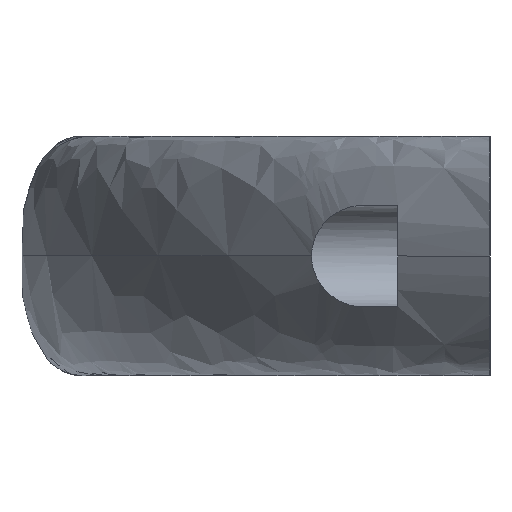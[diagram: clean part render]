
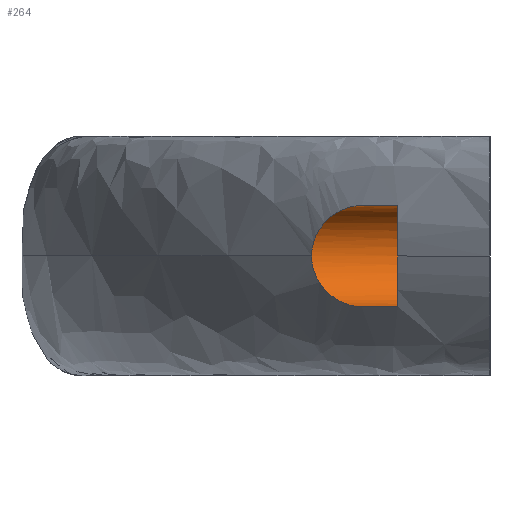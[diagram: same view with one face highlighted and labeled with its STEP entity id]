
A CAD part, left-side view. The second image highlights one B-rep face of the part: STEP entity #264.
In plain terms, the highlighted cylindrical face has radius 5.5 mm (diameter 11 mm), a partial arc.
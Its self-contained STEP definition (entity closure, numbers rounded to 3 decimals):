
#6 = VERTEX_POINT ( 'NONE', #923 ) ;
#26 = VERTEX_POINT ( 'NONE', #930 ) ;
#31 = EDGE_CURVE ( 'NONE', #144, #26, #955, .T. ) ;
#86 = EDGE_CURVE ( 'NONE', #6, #144, #1086, .T. ) ;
#144 = VERTEX_POINT ( 'NONE', #1768 ) ;
#170 = VERTEX_POINT ( 'NONE', #1888 ) ;
#172 = EDGE_CURVE ( 'NONE', #170, #287, #1862, .T. ) ;
#185 = ORIENTED_EDGE ( 'NONE', *, *, #86, .T. ) ;
#199 = EDGE_CURVE ( 'NONE', #287, #26, #1860, .T. ) ;
#205 = EDGE_CURVE ( 'NONE', #170, #6, #1917, .T. ) ;
#212 = ORIENTED_EDGE ( 'NONE', *, *, #199, .F. ) ;
#214 = ORIENTED_EDGE ( 'NONE', *, *, #172, .F. ) ;
#221 = ORIENTED_EDGE ( 'NONE', *, *, #31, .T. ) ;
#248 = CARTESIAN_POINT ( 'NONE',  ( -92.282, 17.504, -4.057 ) ) ;
#249 = CARTESIAN_POINT ( 'NONE',  ( -92.156, 17.633, -3.937 ) ) ;
#250 = CARTESIAN_POINT ( 'NONE',  ( -91.909, 17.885, -3.681 ) ) ;
#251 = CARTESIAN_POINT ( 'NONE',  ( -91.79, 18.008, -3.544 ) ) ;
#252 = CARTESIAN_POINT ( 'NONE',  ( -91.45, 18.359, -3.112 ) ) ;
#253 = CARTESIAN_POINT ( 'NONE',  ( -91.246, 18.571, -2.794 ) ) ;
#254 = CARTESIAN_POINT ( 'NONE',  ( -90.982, 18.846, -2.261 ) ) ;
#255 = CARTESIAN_POINT ( 'NONE',  ( -90.902, 18.93, -2.074 ) ) ;
#256 = CARTESIAN_POINT ( 'NONE',  ( -90.762, 19.077, -1.689 ) ) ;
#257 = CARTESIAN_POINT ( 'NONE',  ( -90.701, 19.14, -1.489 ) ) ;
#262 = CARTESIAN_POINT ( 'NONE',  ( -90.602, 19.244, -1.076 ) ) ;
#263 = CARTESIAN_POINT ( 'NONE',  ( -90.564, 19.284, -0.863 ) ) ;
#264 = ADVANCED_FACE ( 'NONE', ( #1948 ), #1937, .F. ) ;
#268 = ORIENTED_EDGE ( 'NONE', *, *, #205, .T. ) ;
#270 = EDGE_LOOP ( 'NONE', ( #214, #268, #185, #221, #212 ) ) ;
#277 = CARTESIAN_POINT ( 'NONE',  ( -90.513, 19.338, -0.435 ) ) ;
#281 = CARTESIAN_POINT ( 'NONE',  ( -90.5, 19.351, -0.219 ) ) ;
#287 = VERTEX_POINT ( 'NONE', #1942 ) ;
#855 = CARTESIAN_POINT ( 'NONE',  ( -96., 13.938, -5.5 ) ) ;
#856 = CARTESIAN_POINT ( 'NONE',  ( -95.677, 14.226, -5.5 ) ) ;
#858 = CARTESIAN_POINT ( 'NONE',  ( -94.723, 15.106, -5.359 ) ) ;
#859 = CARTESIAN_POINT ( 'NONE',  ( -92.672, 17.108, -4.392 ) ) ;
#869 = CARTESIAN_POINT ( 'NONE',  ( -92.945, 16.834, -4.585 ) ) ;
#890 = CARTESIAN_POINT ( 'NONE',  ( -95.353, 14.521, -5.471 ) ) ;
#914 = CARTESIAN_POINT ( 'NONE',  ( -93.811, 15.979, -5.056 ) ) ;
#915 = CARTESIAN_POINT ( 'NONE',  ( -93.514, 16.27, -4.917 ) ) ;
#923 = CARTESIAN_POINT ( 'NONE',  ( -96., 13.938, 5.5 ) ) ;
#924 = CARTESIAN_POINT ( 'NONE',  ( -94.415, 15.398, -5.276 ) ) ;
#930 = CARTESIAN_POINT ( 'NONE',  ( -96., 13.938, -5.5 ) ) ;
#954 = CARTESIAN_POINT ( 'NONE',  ( -90.5, 19.351, 0. ) ) ;
#955 = B_SPLINE_CURVE_WITH_KNOTS ( 'NONE', 3,
 ( #954, #281, #277, #263, #262, #257, #256, #255, #254, #253, #252, #251, #250, #249, #248, #859, #869, #915, #914, #924, #858, #890, #856, #855 ),
 .UNSPECIFIED., .F., .F.,
 ( 4, 2, 2, 2, 2, 2, 2, 2, 2, 2, 2, 4 ),
 ( 0.018, 0.018, 0.019, 0.02, 0.02, 0.022, 0.022, 0.023, 0.024, 0.026, 0.027, 0.028 ),
 .UNSPECIFIED. ) ;
#1084 = CARTESIAN_POINT ( 'NONE',  ( -96., 13.938, 5.5 ) ) ;
#1086 = B_SPLINE_CURVE_WITH_KNOTS ( 'NONE', 3,
 ( #1084, #1125, #1124, #1123, #1122, #1121, #1120, #1119, #1118, #1156, #1155, #1154, #1153, #1152, #1151, #1150, #1149, #1148, #1104, #1103, #1102, #1101, #1100, #1099 ),
 .UNSPECIFIED., .F., .F.,
 ( 4, 2, 2, 2, 2, 2, 2, 2, 2, 2, 2, 4 ),
 ( 0.007, 0.009, 0.01, 0.011, 0.013, 0.014, 0.015, 0.015, 0.016, 0.016, 0.017, 0.018 ),
 .UNSPECIFIED. ) ;
#1099 = CARTESIAN_POINT ( 'NONE',  ( -90.5, 19.351, 0. ) ) ;
#1100 = CARTESIAN_POINT ( 'NONE',  ( -90.5, 19.351, 0.219 ) ) ;
#1101 = CARTESIAN_POINT ( 'NONE',  ( -90.513, 19.337, 0.439 ) ) ;
#1102 = CARTESIAN_POINT ( 'NONE',  ( -90.565, 19.284, 0.868 ) ) ;
#1103 = CARTESIAN_POINT ( 'NONE',  ( -90.603, 19.244, 1.078 ) ) ;
#1104 = CARTESIAN_POINT ( 'NONE',  ( -90.702, 19.14, 1.491 ) ) ;
#1118 = CARTESIAN_POINT ( 'NONE',  ( -92.68, 17.1, 4.399 ) ) ;
#1119 = CARTESIAN_POINT ( 'NONE',  ( -92.953, 16.826, 4.59 ) ) ;
#1120 = CARTESIAN_POINT ( 'NONE',  ( -93.518, 16.266, 4.919 ) ) ;
#1121 = CARTESIAN_POINT ( 'NONE',  ( -93.81, 15.98, 5.056 ) ) ;
#1122 = CARTESIAN_POINT ( 'NONE',  ( -94.414, 15.399, 5.276 ) ) ;
#1123 = CARTESIAN_POINT ( 'NONE',  ( -94.727, 15.103, 5.36 ) ) ;
#1124 = CARTESIAN_POINT ( 'NONE',  ( -95.357, 14.517, 5.472 ) ) ;
#1125 = CARTESIAN_POINT ( 'NONE',  ( -95.676, 14.226, 5.5 ) ) ;
#1148 = CARTESIAN_POINT ( 'NONE',  ( -90.763, 19.075, 1.694 ) ) ;
#1149 = CARTESIAN_POINT ( 'NONE',  ( -90.904, 18.928, 2.078 ) ) ;
#1150 = CARTESIAN_POINT ( 'NONE',  ( -90.983, 18.845, 2.262 ) ) ;
#1151 = CARTESIAN_POINT ( 'NONE',  ( -91.158, 18.662, 2.616 ) ) ;
#1152 = CARTESIAN_POINT ( 'NONE',  ( -91.255, 18.562, 2.787 ) ) ;
#1153 = CARTESIAN_POINT ( 'NONE',  ( -91.459, 18.349, 3.11 ) ) ;
#1154 = CARTESIAN_POINT ( 'NONE',  ( -91.567, 18.237, 3.261 ) ) ;
#1155 = CARTESIAN_POINT ( 'NONE',  ( -91.907, 17.887, 3.692 ) ) ;
#1156 = CARTESIAN_POINT ( 'NONE',  ( -92.155, 17.633, 3.948 ) ) ;
#1768 = CARTESIAN_POINT ( 'NONE',  ( -90.5, 19.351, 0. ) ) ;
#1857 = DIRECTION ( 'NONE',  ( 0., 1., 0. ) ) ;
#1858 = VECTOR ( 'NONE', #1857, 1000. ) ;
#1859 = CARTESIAN_POINT ( 'NONE',  ( -96., 13.94, -5.5 ) ) ;
#1860 = LINE ( 'NONE', #1859, #1858 ) ;
#1862 = CIRCLE ( 'NONE', #1865, 5.5 ) ;
#1865 = AXIS2_PLACEMENT_3D ( 'NONE', #1926, #1882, #2004 ) ;
#1882 = DIRECTION ( 'NONE',  ( 0., 1., 0. ) ) ;
#1885 = DIRECTION ( 'NONE',  ( 0., 1., 0. ) ) ;
#1886 = VECTOR ( 'NONE', #1885, 1000. ) ;
#1888 = CARTESIAN_POINT ( 'NONE',  ( -96., 10., 5.5 ) ) ;
#1916 = CARTESIAN_POINT ( 'NONE',  ( -96., 0., 5.5 ) ) ;
#1917 = LINE ( 'NONE', #1916, #1886 ) ;
#1926 = CARTESIAN_POINT ( 'NONE',  ( -96., 10., 0. ) ) ;
#1937 = CYLINDRICAL_SURFACE ( 'NONE', #1943, 5.5 ) ;
#1942 = CARTESIAN_POINT ( 'NONE',  ( -96., 10., -5.5 ) ) ;
#1943 = AXIS2_PLACEMENT_3D ( 'NONE', #1968, #1967, #1966 ) ;
#1948 = FACE_OUTER_BOUND ( 'NONE', #270, .T. ) ;
#1966 = DIRECTION ( 'NONE',  ( 0., 0., -1. ) ) ;
#1967 = DIRECTION ( 'NONE',  ( 0., -1., 0. ) ) ;
#1968 = CARTESIAN_POINT ( 'NONE',  ( -96., 0., 0. ) ) ;
#2004 = DIRECTION ( 'NONE',  ( 0., 0., -1. ) ) ;
